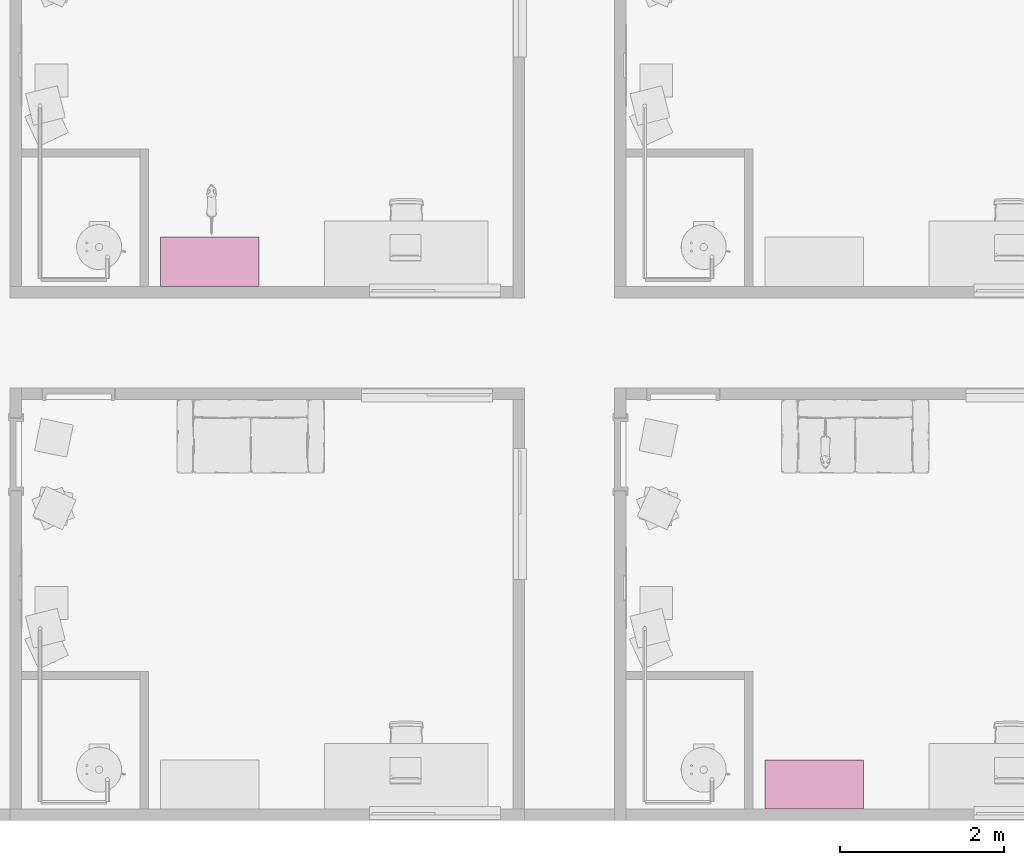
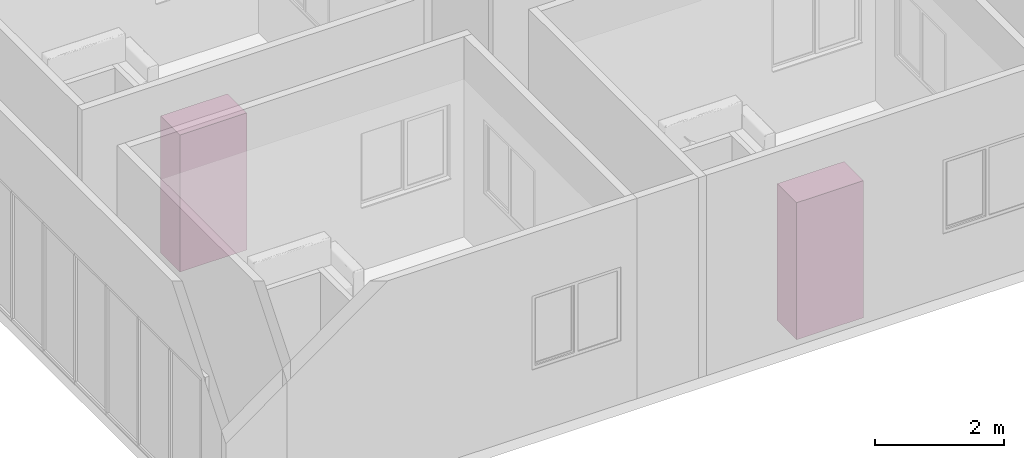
# One storey, part 52 of 71: 2 furniture elements.
"""IFC4 building model written with IfcOpenShell, lengths in centimetres."""

import ifcopenshell
import ifcopenshell.guid

model = None  # the IFC model being written
_history = None  # IfcOwnerHistory: only IFC2X3 demands one
_inside = {}  # id of a spatial element -> (the spatial element, [elements in it])
_under = {}  # id of a project, library or spatial element -> (it, [spatial elements below it])
_declared = {}  # id of a project -> (the project, [libraries it declares])
_typed = {}  # id of a type object -> (the type object, [elements of that type])
_made_of = {}  # id of a material, layer set ... -> (it, [elements and type objects made of it])


def new_model(schema):
    """Start an empty IFC model of exactly this schema.

    Asked for "IFC4X3", IfcOpenShell would pick the latest addendum, in which some entities
    have other attributes; the version numbers below select the first issue.
    IFC2X3 requires an IfcOwnerHistory on every rooted entity: one is made here for all.
    """
    global model, _history
    if schema == "IFC4X3":
        model = ifcopenshell.file(schema_version=(4, 3, 0, 0))
    else:
        model = ifcopenshell.file(schema=schema)
    _inside.clear()
    _under.clear()
    _declared.clear()
    _typed.clear()
    _made_of.clear()
    _history = None
    if model.schema == "IFC2X3":
        org = make("IfcOrganization", Name="unknown")
        user = make(
            "IfcPersonAndOrganization",
            ThePerson=make("IfcPerson", FamilyName="unknown"),
            TheOrganization=org,
        )
        app = make(
            "IfcApplication",
            ApplicationDeveloper=org,
            Version="unknown",
            ApplicationFullName="unknown",
            ApplicationIdentifier="unknown",
        )
        _history = make(
            "IfcOwnerHistory",
            OwningUser=user,
            OwningApplication=app,
            ChangeAction="ADDED",
            CreationDate=0,
        )
    return model


def make(cls, **values):
    """One entity of the class cls with the attributes given. An attribute that is None is left unset."""
    return model.create_entity(
        cls, **{name: value for name, value in values.items() if value is not None}
    )


def entity(cls, *values):
    """Any entity or typed value of the class cls, its attributes in the order of the schema. None: left unset."""
    e = model.create_entity(cls)
    for i, value in enumerate(values):
        if value is not None:
            e[i] = value
    return e


def rooted(cls, **values):
    """An entity with a GlobalId (a new one), such as an element, a storey or a relation."""
    return make(cls, GlobalId=ifcopenshell.guid.new(), OwnerHistory=_history, **values)


def si_unit(unit_type, name, prefix=None):
    """IfcSIUnit, for example si_unit("LENGTHUNIT", "METRE", prefix="MILLI")."""
    return make("IfcSIUnit", UnitType=unit_type, Prefix=prefix, Name=name)


def converted_unit(unit_type, name, factor, base, dimensions=None, offset=None):
    """IfcConversionBasedUnit, such as the inch: factor (a typed value) times the base unit."""
    return make(
        "IfcConversionBasedUnit"
        if offset is None
        else "IfcConversionBasedUnitWithOffset",
        ConversionOffset=offset,
        Dimensions=None
        if dimensions is None
        else entity("IfcDimensionalExponents", *dimensions),
        UnitType=unit_type,
        Name=name,
        ConversionFactor=make(
            "IfcMeasureWithUnit", ValueComponent=factor, UnitComponent=base
        ),
    )


def derived_unit(unit_type, elements):
    """IfcDerivedUnit: a product of units, each with its exponent."""
    return make(
        "IfcDerivedUnit",
        Elements=[
            make("IfcDerivedUnitElement", Unit=unit, Exponent=power)
            for unit, power in elements
        ],
        UnitType=unit_type,
    )


def assignment(units):
    """IfcUnitAssignment: the units of a project."""
    return None if units is None else make("IfcUnitAssignment", Units=units)


def point(xyz):
    """IfcCartesianPoint."""
    return None if xyz is None else make("IfcCartesianPoint", Coordinates=xyz)


def direction(xyz):
    """IfcDirection."""
    return None if xyz is None else make("IfcDirection", DirectionRatios=xyz)


def frame(location, z_axis=None, x_axis=None):
    """IfcAxis2Placement3D, a coordinate frame: its origin and axes. An axis left out is left unset."""
    return make(
        "IfcAxis2Placement3D",
        Location=point(location),
        Axis=direction(z_axis),
        RefDirection=direction(x_axis),
    )


def origin():
    """The frame at (0, 0, 0) with its axes left unset."""
    return frame((0.0, 0.0, 0.0))


def place(relative_to, where):
    """IfcLocalPlacement: puts the frame where relative to a parent placement (None: the world)."""
    return make(
        "IfcLocalPlacement", PlacementRelTo=relative_to, RelativePlacement=where
    )


def context(
    kind, dimensions, precision=None, world=None, true_north=None, identifier=None
):
    """IfcGeometricRepresentationContext, for example the 3D "Model" context."""
    return make(
        "IfcGeometricRepresentationContext",
        ContextIdentifier=identifier,
        ContextType=kind,
        CoordinateSpaceDimension=dimensions,
        Precision=precision,
        WorldCoordinateSystem=world,
        TrueNorth=true_north,
    )


def subcontext(parent, identifier, kind, view, scale=None):
    """IfcGeometricRepresentationSubContext, for example "Body" below "Model"."""
    return make(
        "IfcGeometricRepresentationSubContext",
        ContextIdentifier=identifier,
        ContextType=kind,
        ParentContext=parent,
        TargetScale=scale,
        TargetView=view,
    )


def project(units=None, contexts=None):
    """IfcProject with its units and contexts."""
    return rooted(
        "IfcProject",
        Name="project",
        RepresentationContexts=contexts,
        UnitsInContext=assignment(units),
    )


def spatial(cls, under=None, at=None, **own):
    """A site, building, storey or space (cls), placed at a placement, below another one or the project."""
    s = rooted(cls, ObjectPlacement=at, **own)
    if under is not None:
        _under.setdefault(under.id(), (under, []))[1].append(s)
    return s


def point_list(points):
    """IfcCartesianPointList2D or 3D."""
    cls = (
        "IfcCartesianPointList2D" if len(points[0]) == 2 else "IfcCartesianPointList3D"
    )
    return make(cls, CoordList=points)


def indexed_curve(points, segments=None, self_intersect=None):
    """IfcIndexedPolyCurve: lines and arcs through numbered points (the first is 1)."""
    return make(
        "IfcIndexedPolyCurve",
        Points=point_list(points),
        Segments=segments,
        SelfIntersect=self_intersect,
    )


def outline(outer, holes=None, kind="AREA"):
    """IfcArbitraryClosedProfileDef: a profile drawn as a closed curve; with holes, ...WithVoids."""
    if holes is None:
        return make("IfcArbitraryClosedProfileDef", ProfileType=kind, OuterCurve=outer)
    return make(
        "IfcArbitraryProfileDefWithVoids",
        ProfileType=kind,
        OuterCurve=outer,
        InnerCurves=holes,
    )


def extrude(swept, where, along, depth):
    """IfcExtrudedAreaSolid: the profile swept, set in the frame where, extruded along a direction by depth."""
    return make(
        "IfcExtrudedAreaSolid",
        SweptArea=swept,
        Position=where,
        ExtrudedDirection=direction(along),
        Depth=depth,
    )


def shape(context_of_items, identifier, shape_type, items):
    """IfcShapeRepresentation: the items that make up one representation, for example the "Body"."""
    return make(
        "IfcShapeRepresentation",
        ContextOfItems=context_of_items,
        RepresentationIdentifier=identifier,
        RepresentationType=shape_type,
        Items=items,
    )


def source(mapping_origin, context_of_items, identifier, shape_type, items):
    """IfcRepresentationMap: a shape defined once, which mapped items show again and again."""
    return make(
        "IfcRepresentationMap",
        MappingOrigin=mapping_origin,
        MappedRepresentation=shape(context_of_items, identifier, shape_type, items),
    )


def transform(
    local_origin,
    x_axis=None,
    y_axis=None,
    z_axis=None,
    scale=None,
    scale2=None,
    scale3=None,
    uniform=True,
):
    """IfcCartesianTransformationOperator3D, or its non-uniform kind. x_axis, y_axis, z_axis: its Axis1, 2, 3."""
    if uniform:
        return make(
            "IfcCartesianTransformationOperator3D",
            Axis1=direction(x_axis),
            Axis2=direction(y_axis),
            LocalOrigin=point(local_origin),
            Scale=scale,
            Axis3=direction(z_axis),
        )
    return make(
        "IfcCartesianTransformationOperator3DnonUniform",
        Axis1=direction(x_axis),
        Axis2=direction(y_axis),
        LocalOrigin=point(local_origin),
        Scale=scale,
        Axis3=direction(z_axis),
        Scale2=scale2,
        Scale3=scale3,
    )


def mapped(mapping_source, mapping_target):
    """IfcMappedItem: shows the shape of a source again, moved by a transform."""
    return make(
        "IfcMappedItem", MappingSource=mapping_source, MappingTarget=mapping_target
    )


def material(Name=None, Category=None):
    """IfcMaterial."""
    return make("IfcMaterial", Name=Name, Category=Category)


def made_of(thing, what):
    """Note that an element or type object is made of a material, layer set ...; save() writes the relation."""
    if what is not None:
        _made_of.setdefault(what.id(), (what, []))[1].append(thing)
    return thing


def type_object(cls, material=None, **own):
    """A type object (cls), such as IfcWallType, which elements share."""
    return made_of(rooted(cls, **own), material)


def type_shapes(of_type, sources):
    """Give a type object the sources (RepresentationMaps) that its elements show as mapped items."""
    of_type.RepresentationMaps = sources


def element(
    cls,
    number,
    at=None,
    inside=None,
    cuts=None,
    type_object=None,
    material=None,
    context=None,
    identifier="Body",
    shape_type=None,
    held_by="IfcProductDefinitionShape",
    body=None,
    shapes=None,
    **own,
):
    """One element of the class cls, such as IfcWall. Its Tag is "e" and its number.

    at: its placement. inside: the storey or other place that contains it. cuts: it is an
    opening in that element (IfcRelVoidsElement). A single representation is given by context,
    identifier, shape_type and body (its items); several are given by shapes. held_by: the class
    of the entity that holds the representations. save() writes the other relations.
    """
    e = rooted(cls, Tag="e%d" % number, ObjectPlacement=at, **own)
    if body is not None:
        shapes = [shape(context, identifier, shape_type, body)]
    if shapes is not None:
        e.Representation = make(held_by, Representations=shapes)
    if inside is not None:
        _inside.setdefault(inside.id(), (inside, []))[1].append(e)
    if cuts is not None:
        rooted(
            "IfcRelVoidsElement", RelatingBuildingElement=cuts, RelatedOpeningElement=e
        )
    if type_object is not None:
        _typed.setdefault(type_object.id(), (type_object, []))[1].append(e)
    return made_of(e, material)


def aggregate(whole, parts):
    """IfcRelAggregates: a whole, such as a stair, and the parts it consists of."""
    return rooted("IfcRelAggregates", RelatingObject=whole, RelatedObjects=parts)


def save(model, path):
    """Write the relations noted so far, then the file.

    IfcRelAggregates (storeys below a building ...), IfcRelContainedInSpatialStructure (elements
    in a storey), IfcRelDefinesByType, IfcRelAssociatesMaterial and IfcRelDeclares: one each for
    every whole, place, type object, material and project.
    """
    for whole, parts in _under.values():
        aggregate(whole, parts)
    for where, things in _inside.values():
        rooted(
            "IfcRelContainedInSpatialStructure",
            RelatedElements=things,
            RelatingStructure=where,
        )
    for kind, things in _typed.values():
        rooted("IfcRelDefinesByType", RelatedObjects=things, RelatingType=kind)
    for what, things in _made_of.values():
        rooted("IfcRelAssociatesMaterial", RelatedObjects=things, RelatingMaterial=what)
    for by, libraries in _declared.values():
        rooted("IfcRelDeclares", RelatingContext=by, RelatedDefinitions=libraries)
    model.write(path)


model = new_model("IFC4")

# Units and contexts
model_context = context("Model", 3, precision=0.001, world=origin(), true_north=direction((6.123233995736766e-17, 1.0)))
body_context = subcontext(model_context, "Body", "Model", "MODEL_VIEW")
ifc_project = project(units=[si_unit("LENGTHUNIT", "METRE", prefix="CENTI"), si_unit("AREAUNIT", "SQUARE_METRE"), si_unit("VOLUMEUNIT", "CUBIC_METRE"), derived_unit("THERMALTRANSMITTANCEUNIT", [(si_unit("MASSUNIT", "GRAM", prefix="KILO"), 1), (si_unit("THERMODYNAMICTEMPERATUREUNIT", "KELVIN"), -1), (si_unit("TIMEUNIT", "SECOND"), -3)]), converted_unit("PLANEANGLEUNIT", "DEGREE", entity("IfcPlaneAngleMeasure", 0.017453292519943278), si_unit("PLANEANGLEUNIT", "RADIAN"), dimensions=[0, 0, 0, 0, 0, 0, 0]), derived_unit("MASSDENSITYUNIT", [(si_unit("MASSUNIT", "GRAM", prefix="KILO"), 1), (si_unit("LENGTHUNIT", "METRE"), -3)]), derived_unit("VAPORPERMEABILITYUNIT", [(si_unit("LENGTHUNIT", "METRE"), -1), (si_unit("TIMEUNIT", "SECOND"), 1)]), derived_unit("USERDEFINED", [(si_unit("MASSUNIT", "GRAM", prefix="KILO"), 1), (si_unit("TIMEUNIT", "SECOND"), -3), (si_unit("LENGTHUNIT", "METRE"), 3), (si_unit("ELECTRICCURRENTUNIT", "AMPERE"), -2)]), derived_unit("SPECIFICHEATCAPACITYUNIT", [(si_unit("THERMODYNAMICTEMPERATUREUNIT", "KELVIN"), -1), (si_unit("LENGTHUNIT", "METRE"), 2), (si_unit("TIMEUNIT", "SECOND"), -2)]), derived_unit("THERMALCONDUCTANCEUNIT", [(si_unit("MASSUNIT", "GRAM", prefix="KILO"), 1), (si_unit("THERMODYNAMICTEMPERATUREUNIT", "KELVIN"), -1), (si_unit("TIMEUNIT", "SECOND"), -3), (si_unit("LENGTHUNIT", "METRE"), 1)]), si_unit("PRESSUREUNIT", "PASCAL"), derived_unit("MODULUSOFELASTICITYUNIT", [(si_unit("MASSUNIT", "GRAM", prefix="KILO"), 1), (si_unit("LENGTHUNIT", "METRE"), -1), (si_unit("TIMEUNIT", "SECOND"), -2)]), derived_unit("THERMALEXPANSIONCOEFFICIENTUNIT", [(si_unit("THERMODYNAMICTEMPERATUREUNIT", "KELVIN"), -1)])], contexts=[model_context])

# Site, building, storey, space
site_placement = place(None, origin())
site = spatial("IfcSite", under=ifc_project, at=site_placement, Name="Default", CompositionType="ELEMENT")
building_placement = place(site_placement, origin())
building = spatial("IfcBuilding", under=site, at=building_placement, Name="IDS Escape Game Building", CompositionType="ELEMENT")
storey_placement = place(building_placement, frame((0.0, 0.0, 1200.0)))
storey = spatial("IfcBuildingStorey", under=building, at=storey_placement, Name="03_Third Floor", CompositionType="ELEMENT", Elevation=1200.0)
space_1_placement = place(storey_placement, origin())
space_1 = spatial("IfcSpace", under=storey, at=space_1_placement, Name="107", CompositionType="ELEMENT", PredefinedType="NOTDEFINED")

# Furniture
ifc_material = material(Name="<Unnamed>")
furniture_type = type_object("IfcFurnitureType", Name="BPL_82.11_CA_UN_kast_gen_BERSnl:type 1", AssemblyPlace="NOTDEFINED", PredefinedType="NOTDEFINED", material=ifc_material)
shared_shape = source(origin(), body_context, "Body", "SweptSolid", [
    extrude(outline(indexed_curve([(-59.99999999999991, -29.999999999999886), (59.99999999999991, -29.999999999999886), (59.99999999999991, 29.999999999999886), (-59.99999999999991, 29.999999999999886), (-59.99999999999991, -29.999999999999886)], self_intersect=False)), frame((-60.0, -30.0, 0.0), z_axis=(0.0, 0.0, 1.0), x_axis=(-1.0, 0.0, 0.0)), (0.0, 0.0, 1.0), 260.0),
])
type_shapes(furniture_type, [shared_shape])
furniture_1_placement = place(space_1_placement, frame((1035.0, 73.0, 0.0)))
element("IfcFurniture", 1, at=furniture_1_placement, inside=space_1, type_object=furniture_type, material=ifc_material, Name="BPL_82.11_CA_UN_kast_gen_BERSnl:type 1", ObjectType="BPL_82.11_CA_UN_kast_gen_BERSnl:type 1", PredefinedType="NOTDEFINED", context=body_context, shape_type="MappedRepresentation", body=[
    mapped(shared_shape, transform((0.0, 0.0, 0.0), scale=1.0)),
])

# Space
space_2_placement = place(storey_placement, origin())
space_2 = spatial("IfcSpace", under=storey, at=space_2_placement, Name="113", CompositionType="ELEMENT", PredefinedType="NOTDEFINED")

# Furniture
furniture_2_placement = place(space_2_placement, frame((297.0, 711.0, 0.0)))
element("IfcFurniture", 2, at=furniture_2_placement, inside=space_2, type_object=furniture_type, material=ifc_material, Name="BPL_82.11_CA_UN_kast_gen_BERSnl:type 1", ObjectType="BPL_82.11_CA_UN_kast_gen_BERSnl:type 1", PredefinedType="NOTDEFINED", context=body_context, shape_type="MappedRepresentation", body=[
    mapped(shared_shape, transform((0.0, 0.0, 0.0), scale=1.0)),
])

save(model, "model.ifc")
